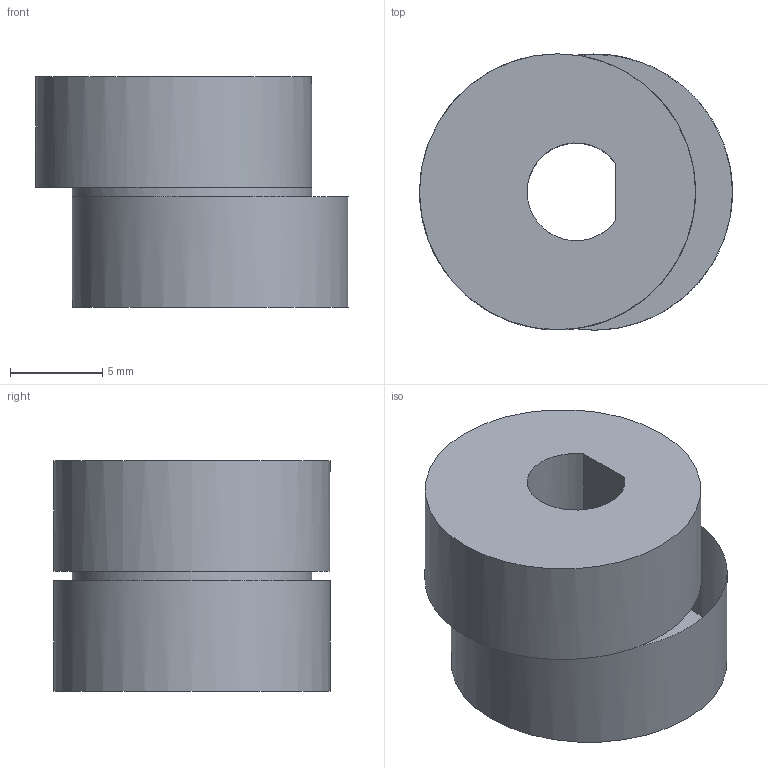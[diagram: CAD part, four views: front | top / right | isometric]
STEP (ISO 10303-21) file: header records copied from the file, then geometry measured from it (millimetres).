
FILE_DESCRIPTION(/* description */ (''),/* implementation_level */ '2;1');
FILE_NAME(/* name */ 'HW-Cycloid25_Cam.step',/* time_stamp */ '2026-10-21T02:01:44-07:00',/* author */ (''),/* organization */ (''),/* preprocessor_version */ 'ST-DEVELOPER v20.2',/* originating_system */ 'Autodesk Translation Framework v15.15.0.0',/* authorisation */ '');
FILE_SCHEMA (('AUTOMOTIVE_DESIGN { 1 0 10303 214 3 1 1 }'));
Length unit declared in the file: millimetre
Products named in the file (1): 2026-10-21-02-01-44-120
Bounding box: 16.96 x 14.96 x 12.5 mm (x, y, z)
Volume: 1908.8 mm3; surface area: 1187.8 mm2
Topology: 1 solids, 1 shells, 10 faces, 20 edges, 12 vertices
Faces by surface type: plane 6, cylinder 4
Full cylindrical faces by diameter (mm): 5.3 x1, 12.96 x1, 14.96 x2
Entity records: 301 total; most frequent: DIRECTION 54, CARTESIAN_POINT 43, ORIENTED_EDGE 40, AXIS2_PLACEMENT_3D 23, EDGE_CURVE 20, CIRCLE 12, EDGE_LOOP 12, VERTEX_POINT 12
